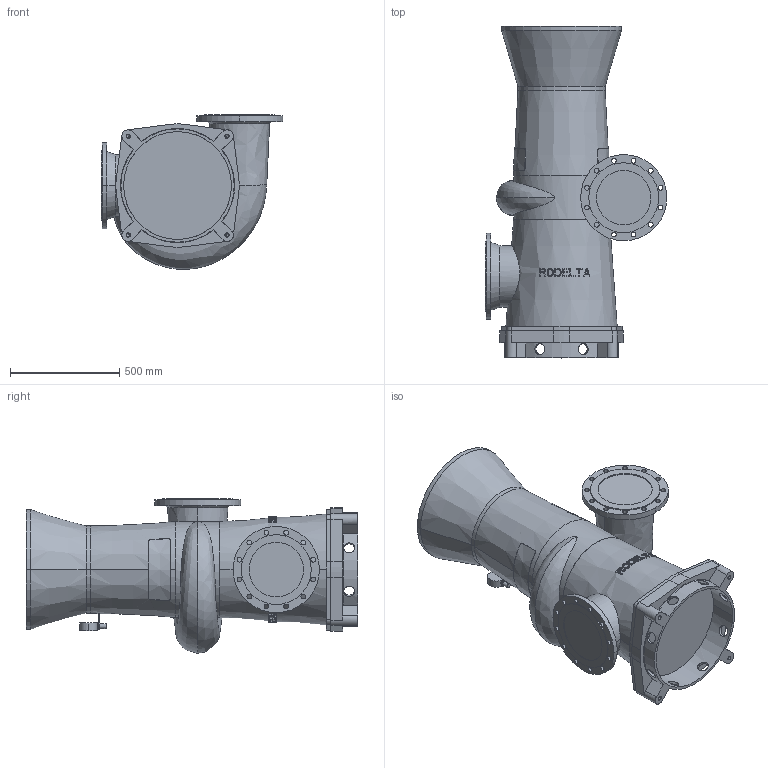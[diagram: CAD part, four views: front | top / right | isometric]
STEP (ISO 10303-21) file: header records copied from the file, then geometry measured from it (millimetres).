
FILE_DESCRIPTION((''),'2;1');
FILE_NAME('8310_VOOR_BLAD_ASM','2024-07-25T',('Lyritlocal'),(''),'PRO/ENGINEER BY PARAMETRIC TECHNOLOGY CORPORATION, 2016360','PRO/ENGINEER BY PARAMETRIC TECHNOLOGY CORPORATION, 2016360','');
FILE_SCHEMA(('CONFIG_CONTROL_DESIGN'));
Length unit declared in the file: millimetre
Products named in the file (3): 8310; 8310_VOET; 8310_VOOR_BLAD_ASM
Assembly tree (2 placements, depth 2):
  8310_VOOR_BLAD_ASM
    8310
    8310_VOET
Bounding box: 832.5 x 1521 x 709.12 mm (x, y, z)
Volume: 290401681.4 mm3; surface area: 4473475.7 mm2
Topology: 2 solids, 6 shells, 545 faces, 1466 edges, 969 vertices
Faces by surface type: plane 342, cylinder 153, cone 40, bspline 6, torus 4
Entity records: 19407 total; most frequent: CARTESIAN_POINT 6110, ORIENTED_EDGE 2900, DIRECTION 2489, EDGE_CURVE 1458, VERTEX_POINT 969, AXIS2_PLACEMENT_3D 967, EDGE_LOOP 661, VECTOR 555
